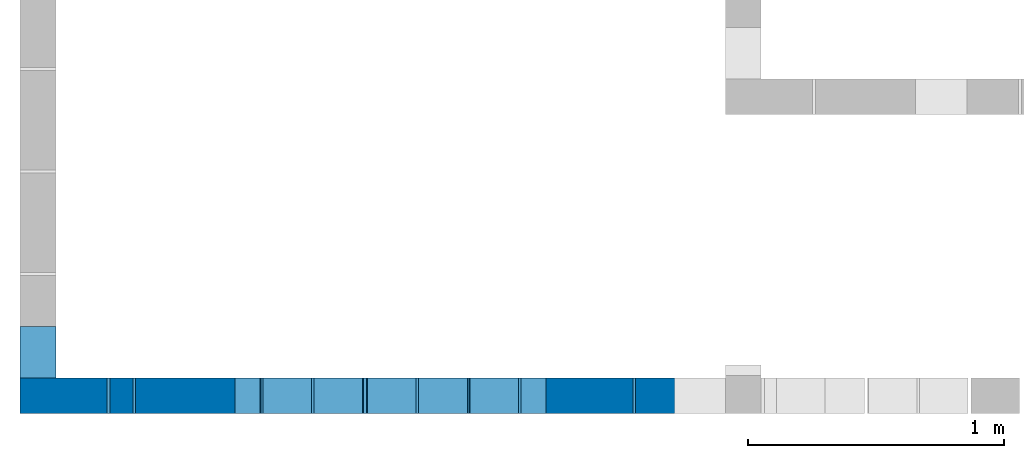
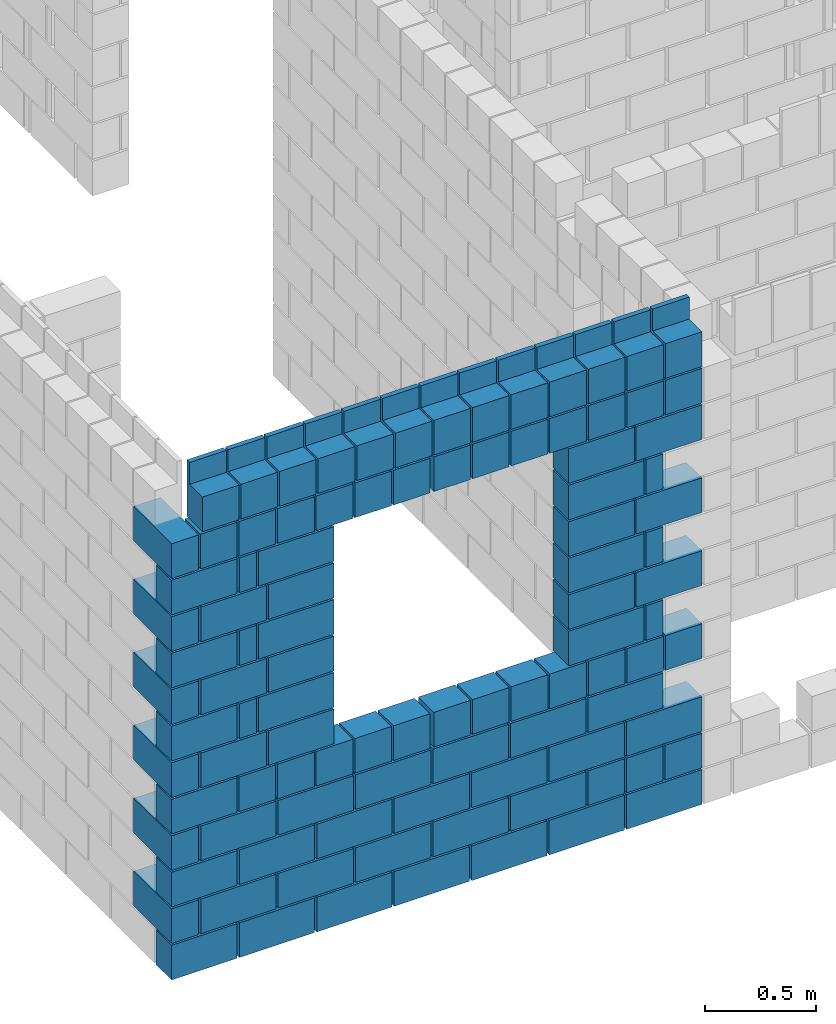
# One storey, part 1 of 12: 2 walls.
"""IFC4 building model written with IfcOpenShell, lengths in centimetres."""

import ifcopenshell
import ifcopenshell.guid

model = None  # the IFC model being written
_history = None  # IfcOwnerHistory: only IFC2X3 demands one
_inside = {}  # id of a spatial element -> (the spatial element, [elements in it])
_under = {}  # id of a project, library or spatial element -> (it, [spatial elements below it])
_declared = {}  # id of a project -> (the project, [libraries it declares])
_typed = {}  # id of a type object -> (the type object, [elements of that type])
_made_of = {}  # id of a material, layer set ... -> (it, [elements and type objects made of it])


def new_model(schema):
    """Start an empty IFC model of exactly this schema.

    Asked for "IFC4X3", IfcOpenShell would pick the latest addendum, in which some entities
    have other attributes; the version numbers below select the first issue.
    IFC2X3 requires an IfcOwnerHistory on every rooted entity: one is made here for all.
    """
    global model, _history
    if schema == "IFC4X3":
        model = ifcopenshell.file(schema_version=(4, 3, 0, 0))
    else:
        model = ifcopenshell.file(schema=schema)
    _inside.clear()
    _under.clear()
    _declared.clear()
    _typed.clear()
    _made_of.clear()
    _history = None
    if model.schema == "IFC2X3":
        org = make("IfcOrganization", Name="unknown")
        user = make(
            "IfcPersonAndOrganization",
            ThePerson=make("IfcPerson", FamilyName="unknown"),
            TheOrganization=org,
        )
        app = make(
            "IfcApplication",
            ApplicationDeveloper=org,
            Version="unknown",
            ApplicationFullName="unknown",
            ApplicationIdentifier="unknown",
        )
        _history = make(
            "IfcOwnerHistory",
            OwningUser=user,
            OwningApplication=app,
            ChangeAction="ADDED",
            CreationDate=0,
        )
    return model


def make(cls, **values):
    """One entity of the class cls with the attributes given. An attribute that is None is left unset."""
    return model.create_entity(
        cls, **{name: value for name, value in values.items() if value is not None}
    )


def rooted(cls, **values):
    """An entity with a GlobalId (a new one), such as an element, a storey or a relation."""
    return make(cls, GlobalId=ifcopenshell.guid.new(), OwnerHistory=_history, **values)


def si_unit(unit_type, name, prefix=None):
    """IfcSIUnit, for example si_unit("LENGTHUNIT", "METRE", prefix="MILLI")."""
    return make("IfcSIUnit", UnitType=unit_type, Prefix=prefix, Name=name)


def derived_unit(unit_type, elements):
    """IfcDerivedUnit: a product of units, each with its exponent."""
    return make(
        "IfcDerivedUnit",
        Elements=[
            make("IfcDerivedUnitElement", Unit=unit, Exponent=power)
            for unit, power in elements
        ],
        UnitType=unit_type,
    )


def assignment(units):
    """IfcUnitAssignment: the units of a project."""
    return None if units is None else make("IfcUnitAssignment", Units=units)


def point(xyz):
    """IfcCartesianPoint."""
    return None if xyz is None else make("IfcCartesianPoint", Coordinates=xyz)


def direction(xyz):
    """IfcDirection."""
    return None if xyz is None else make("IfcDirection", DirectionRatios=xyz)


def frame(location, z_axis=None, x_axis=None):
    """IfcAxis2Placement3D, a coordinate frame: its origin and axes. An axis left out is left unset."""
    return make(
        "IfcAxis2Placement3D",
        Location=point(location),
        Axis=direction(z_axis),
        RefDirection=direction(x_axis),
    )


def frame_2d(location, x_axis=None):
    """IfcAxis2Placement2D, a coordinate frame in the plane: its origin and x axis."""
    return make(
        "IfcAxis2Placement2D", Location=point(location), RefDirection=direction(x_axis)
    )


def origin():
    """The frame at (0, 0, 0) with its axes left unset."""
    return frame((0.0, 0.0, 0.0))


def origin_with_axes():
    """The frame at (0, 0, 0) with the z axis (0, 0, 1) and the x axis (1, 0, 0) written out."""
    return frame((0.0, 0.0, 0.0), z_axis=(0.0, 0.0, 1.0), x_axis=(1.0, 0.0, 0.0))


def origin_2d_with_axis():
    """The frame at (0, 0) in the plane with the x axis (1, 0) written out."""
    return frame_2d((0.0, 0.0), x_axis=(1.0, 0.0))


def place(relative_to, where):
    """IfcLocalPlacement: puts the frame where relative to a parent placement (None: the world)."""
    return make(
        "IfcLocalPlacement", PlacementRelTo=relative_to, RelativePlacement=where
    )


def context(
    kind, dimensions, precision=None, world=None, true_north=None, identifier=None
):
    """IfcGeometricRepresentationContext, for example the 3D "Model" context."""
    return make(
        "IfcGeometricRepresentationContext",
        ContextIdentifier=identifier,
        ContextType=kind,
        CoordinateSpaceDimension=dimensions,
        Precision=precision,
        WorldCoordinateSystem=world,
        TrueNorth=true_north,
    )


def project(units=None, contexts=None):
    """IfcProject with its units and contexts."""
    return rooted(
        "IfcProject",
        Name="project",
        RepresentationContexts=contexts,
        UnitsInContext=assignment(units),
    )


def spatial(cls, under=None, at=None, **own):
    """A site, building, storey or space (cls), placed at a placement, below another one or the project."""
    s = rooted(cls, ObjectPlacement=at, **own)
    if under is not None:
        _under.setdefault(under.id(), (under, []))[1].append(s)
    return s


def profile(cls, at=None, kind="AREA", **sizes):
    """A parametric profile (cls). Its sizes go by their IFC names, for example OverallWidth=200.0."""
    return make(cls, ProfileType=kind, Position=at, **sizes)


def rectangle(**sizes):
    """IfcRectangleProfileDef."""
    return profile("IfcRectangleProfileDef", **sizes)


def extrude(swept, where, along, depth):
    """IfcExtrudedAreaSolid: the profile swept, set in the frame where, extruded along a direction by depth."""
    return make(
        "IfcExtrudedAreaSolid",
        SweptArea=swept,
        Position=where,
        ExtrudedDirection=direction(along),
        Depth=depth,
    )


def shape(context_of_items, identifier, shape_type, items):
    """IfcShapeRepresentation: the items that make up one representation, for example the "Body"."""
    return make(
        "IfcShapeRepresentation",
        ContextOfItems=context_of_items,
        RepresentationIdentifier=identifier,
        RepresentationType=shape_type,
        Items=items,
    )


def made_of(thing, what):
    """Note that an element or type object is made of a material, layer set ...; save() writes the relation."""
    if what is not None:
        _made_of.setdefault(what.id(), (what, []))[1].append(thing)
    return thing


def element(
    cls,
    number,
    at=None,
    inside=None,
    cuts=None,
    type_object=None,
    material=None,
    context=None,
    identifier="Body",
    shape_type=None,
    held_by="IfcProductDefinitionShape",
    body=None,
    shapes=None,
    **own,
):
    """One element of the class cls, such as IfcWall. Its Tag is "e" and its number.

    at: its placement. inside: the storey or other place that contains it. cuts: it is an
    opening in that element (IfcRelVoidsElement). A single representation is given by context,
    identifier, shape_type and body (its items); several are given by shapes. held_by: the class
    of the entity that holds the representations. save() writes the other relations.
    """
    e = rooted(cls, Tag="e%d" % number, ObjectPlacement=at, **own)
    if body is not None:
        shapes = [shape(context, identifier, shape_type, body)]
    if shapes is not None:
        e.Representation = make(held_by, Representations=shapes)
    if inside is not None:
        _inside.setdefault(inside.id(), (inside, []))[1].append(e)
    if cuts is not None:
        rooted(
            "IfcRelVoidsElement", RelatingBuildingElement=cuts, RelatedOpeningElement=e
        )
    if type_object is not None:
        _typed.setdefault(type_object.id(), (type_object, []))[1].append(e)
    return made_of(e, material)


def aggregate(whole, parts):
    """IfcRelAggregates: a whole, such as a stair, and the parts it consists of."""
    return rooted("IfcRelAggregates", RelatingObject=whole, RelatedObjects=parts)


def save(model, path):
    """Write the relations noted so far, then the file.

    IfcRelAggregates (storeys below a building ...), IfcRelContainedInSpatialStructure (elements
    in a storey), IfcRelDefinesByType, IfcRelAssociatesMaterial and IfcRelDeclares: one each for
    every whole, place, type object, material and project.
    """
    for whole, parts in _under.values():
        aggregate(whole, parts)
    for where, things in _inside.values():
        rooted(
            "IfcRelContainedInSpatialStructure",
            RelatedElements=things,
            RelatingStructure=where,
        )
    for kind, things in _typed.values():
        rooted("IfcRelDefinesByType", RelatedObjects=things, RelatingType=kind)
    for what, things in _made_of.values():
        rooted("IfcRelAssociatesMaterial", RelatedObjects=things, RelatingMaterial=what)
    for by, libraries in _declared.values():
        rooted("IfcRelDeclares", RelatingContext=by, RelatedDefinitions=libraries)
    model.write(path)


model = new_model("IFC4")

# Units and contexts
model_context = context("Model", 3, precision=1e-05, world=origin_with_axes(), identifier="Body")
ifc_project = project(units=[si_unit("LENGTHUNIT", "METRE", prefix="CENTI"), si_unit("VOLUMEUNIT", "CUBIC_METRE"), si_unit("AREAUNIT", "SQUARE_METRE"), si_unit("POWERUNIT", "WATT"), si_unit("LUMINOUSFLUXUNIT", "LUMEN"), si_unit("ELECTRICCURRENTUNIT", "AMPERE"), si_unit("PRESSUREUNIT", "PASCAL", prefix="KILO"), si_unit("MASSUNIT", "GRAM", prefix="KILO"), si_unit("PLANEANGLEUNIT", "RADIAN"), derived_unit("VOLUMETRICFLOWRATEUNIT", [(si_unit("LENGTHUNIT", "METRE"), 3), (si_unit("TIMEUNIT", "SECOND"), -1)])], contexts=[model_context])

# Site, building, storey
site_placement = place(None, origin_with_axes())
site = spatial("IfcSite", under=ifc_project, at=site_placement)
building_placement = place(site_placement, origin())
building = spatial("IfcBuilding", under=site, at=building_placement)
storey_placement = place(building_placement, origin_with_axes())
storey = spatial("IfcBuildingStorey", under=building, at=storey_placement, Name="PISO", CompositionType="ELEMENT", Elevation=0.0)

# Walls
wall_1_placement = place(storey_placement, frame((18.0, 18.0, 239.0), z_axis=(0.0, 0.0, 1.0), x_axis=(1.0, 0.0, 0.0)))
element("IfcWall", 1, at=wall_1_placement, inside=storey, context=model_context, shape_type="SolidModel", body=[
    extrude(rectangle(XDim=34.0, YDim=14.0, at=origin_2d_with_axis()), frame((0.0, -10.0, -239.0), z_axis=(0.0, 0.0, 1.0), x_axis=(1.0, 0.0, 0.0)), (0.0, 0.0, 1.0), 19.0),
    extrude(rectangle(XDim=34.0, YDim=14.0, at=origin_2d_with_axis()), frame((-10.0, 0.0, -219.0), z_axis=(0.0, 0.0, 1.0), x_axis=(0.0, 1.0, 0.0)), (0.0, 0.0, 1.0), 19.0),
    extrude(rectangle(XDim=34.0, YDim=14.0, at=origin_2d_with_axis()), frame((0.0, -10.0, -199.0), z_axis=(0.0, 0.0, 1.0), x_axis=(1.0, 0.0, 0.0)), (0.0, 0.0, 1.0), 19.0),
    extrude(rectangle(XDim=34.0, YDim=14.0, at=origin_2d_with_axis()), frame((-10.0, 0.0, -179.0), z_axis=(0.0, 0.0, 1.0), x_axis=(0.0, 1.0, 0.0)), (0.0, 0.0, 1.0), 19.0),
    extrude(rectangle(XDim=34.0, YDim=14.0, at=origin_2d_with_axis()), frame((0.0, -10.0, -159.0), z_axis=(0.0, 0.0, 1.0), x_axis=(1.0, 0.0, 0.0)), (0.0, 0.0, 1.0), 19.0),
    extrude(rectangle(XDim=34.0, YDim=14.0, at=origin_2d_with_axis()), frame((-10.0, 0.0, -139.0), z_axis=(0.0, 0.0, 1.0), x_axis=(0.0, 1.0, 0.0)), (0.0, 0.0, 1.0), 19.0),
    extrude(rectangle(XDim=34.0, YDim=14.0, at=origin_2d_with_axis()), frame((0.0, -10.0, -119.0), z_axis=(0.0, 0.0, 1.0), x_axis=(1.0, 0.0, 0.0)), (0.0, 0.0, 1.0), 19.0),
    extrude(rectangle(XDim=34.0, YDim=14.0, at=origin_2d_with_axis()), frame((-10.0, 0.0, -99.0), z_axis=(0.0, 0.0, 1.0), x_axis=(0.0, 1.0, 0.0)), (0.0, 0.0, 1.0), 19.0),
    extrude(rectangle(XDim=34.0, YDim=14.0, at=origin_2d_with_axis()), frame((0.0, -10.0, -79.0), z_axis=(0.0, 0.0, 1.0), x_axis=(1.0, 0.0, 0.0)), (0.0, 0.0, 1.0), 19.0),
    extrude(rectangle(XDim=34.0, YDim=14.0, at=origin_2d_with_axis()), frame((-10.0, 0.0, -59.0), z_axis=(0.0, 0.0, 1.0), x_axis=(0.0, 1.0, 0.0)), (0.0, 0.0, 1.0), 19.0),
    extrude(rectangle(XDim=34.0, YDim=14.0, at=origin_2d_with_axis()), frame((0.0, -10.0, -39.0), z_axis=(0.0, 0.0, 1.0), x_axis=(1.0, 0.0, 0.0)), (0.0, 0.0, 1.0), 19.0),
    extrude(rectangle(XDim=34.0, YDim=14.0, at=origin_2d_with_axis()), frame((-10.0, 0.0, -19.0), z_axis=(0.0, 0.0, 1.0), x_axis=(0.0, 1.0, 0.0)), (0.0, 0.0, 1.0), 19.0),
])
wall_2_placement = place(storey_placement, frame((146.0, 8.0, 271.0), z_axis=(0.0, 0.0, 1.0), x_axis=(1.0, 0.0, 0.0)))
element("IfcWall", 2, at=wall_2_placement, inside=storey, Name="PAR-PISO-10", context=model_context, shape_type="SolidModel", body=[
    extrude(rectangle(XDim=39.0, YDim=14.0, at=origin_2d_with_axis()), frame((110.35714285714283, 0.0, -271.0), z_axis=(0.0, 0.0, 1.0), x_axis=(-1.0, 0.0, 0.0)), (0.0, 0.0, 1.0), 19.0),
    extrude(rectangle(XDim=39.0, YDim=14.0, at=origin_2d_with_axis()), frame((70.21428571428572, 0.0, -271.0), z_axis=(0.0, 0.0, 1.0), x_axis=(-1.0, 0.0, 0.0)), (0.0, 0.0, 1.0), 19.0),
    extrude(rectangle(XDim=39.0, YDim=14.0, at=origin_2d_with_axis()), frame((30.071428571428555, 0.0, -271.0), z_axis=(0.0, 0.0, 1.0), x_axis=(-1.0, 0.0, 0.0)), (0.0, 0.0, 1.0), 19.0),
    extrude(rectangle(XDim=39.0, YDim=14.0, at=origin_2d_with_axis()), frame((-10.071428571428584, 0.0, -271.0), z_axis=(0.0, 0.0, 1.0), x_axis=(-1.0, 0.0, 0.0)), (0.0, 0.0, 1.0), 19.0),
    extrude(rectangle(XDim=39.0, YDim=14.0, at=origin_2d_with_axis()), frame((-50.21428571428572, 0.0, -271.0), z_axis=(0.0, 0.0, 1.0), x_axis=(-1.0, 0.0, 0.0)), (0.0, 0.0, 1.0), 19.0),
    extrude(rectangle(XDim=39.0, YDim=14.0, at=origin_2d_with_axis()), frame((-90.35714285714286, 0.0, -271.0), z_axis=(0.0, 0.0, 1.0), x_axis=(-1.0, 0.0, 0.0)), (0.0, 0.0, 1.0), 19.0),
    extrude(rectangle(XDim=39.0, YDim=14.0, at=origin_2d_with_axis()), frame((50.21428571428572, 0.0, -251.0), z_axis=(0.0, 0.0, 1.0), x_axis=(-1.0, 0.0, 0.0)), (0.0, 0.0, 1.0), 19.0),
    extrude(rectangle(XDim=39.0, YDim=14.0, at=origin_2d_with_axis()), frame((10.071428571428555, 0.0, -251.0), z_axis=(0.0, 0.0, 1.0), x_axis=(-1.0, 0.0, 0.0)), (0.0, 0.0, 1.0), 19.0),
    extrude(rectangle(XDim=39.0, YDim=14.0, at=origin_2d_with_axis()), frame((-30.071428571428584, 0.0, -251.0), z_axis=(0.0, 0.0, 1.0), x_axis=(-1.0, 0.0, 0.0)), (0.0, 0.0, 1.0), 19.0),
    extrude(rectangle(XDim=39.0, YDim=14.0, at=origin_2d_with_axis()), frame((-70.21428571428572, 0.0, -251.0), z_axis=(0.0, 0.0, 1.0), x_axis=(-1.0, 0.0, 0.0)), (0.0, 0.0, 1.0), 19.0),
    extrude(rectangle(XDim=39.0, YDim=14.0, at=origin_2d_with_axis()), frame((-110.35714285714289, 0.0, -251.0), z_axis=(0.0, 0.0, 1.0), x_axis=(-1.0, 0.0, 0.0)), (0.0, 0.0, 1.0), 19.0),
    extrude(rectangle(XDim=19.0, YDim=14.0, at=origin_2d_with_axis()), frame((120.35714285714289, 0.0, -251.0), z_axis=(0.0, 0.0, 1.0), x_axis=(-1.0, 0.0, 0.0)), (0.0, 0.0, 1.0), 19.0),
    extrude(rectangle(XDim=19.0, YDim=14.0, at=origin_2d_with_axis()), frame((100.35714285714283, 0.0, -251.0), z_axis=(0.0, 0.0, 1.0), x_axis=(-1.0, 0.0, 0.0)), (0.0, 0.0, 1.0), 19.0),
    extrude(rectangle(XDim=19.0, YDim=14.0, at=origin_2d_with_axis()), frame((80.35714285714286, 0.0, -251.0), z_axis=(0.0, 0.0, 1.0), x_axis=(-1.0, 0.0, 0.0)), (0.0, 0.0, 1.0), 19.0),
    extrude(rectangle(XDim=39.0, YDim=14.0, at=origin_2d_with_axis()), frame((110.35714285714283, 0.0, -231.0), z_axis=(0.0, 0.0, 1.0), x_axis=(-1.0, 0.0, 0.0)), (0.0, 0.0, 1.0), 19.0),
    extrude(rectangle(XDim=39.0, YDim=14.0, at=origin_2d_with_axis()), frame((70.21428571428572, 0.0, -231.0), z_axis=(0.0, 0.0, 1.0), x_axis=(-1.0, 0.0, 0.0)), (0.0, 0.0, 1.0), 19.0),
    extrude(rectangle(XDim=39.0, YDim=14.0, at=origin_2d_with_axis()), frame((30.071428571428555, 0.0, -231.0), z_axis=(0.0, 0.0, 1.0), x_axis=(-1.0, 0.0, 0.0)), (0.0, 0.0, 1.0), 19.0),
    extrude(rectangle(XDim=39.0, YDim=14.0, at=origin_2d_with_axis()), frame((-10.071428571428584, 0.0, -231.0), z_axis=(0.0, 0.0, 1.0), x_axis=(-1.0, 0.0, 0.0)), (0.0, 0.0, 1.0), 19.0),
    extrude(rectangle(XDim=39.0, YDim=14.0, at=origin_2d_with_axis()), frame((-50.21428571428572, 0.0, -231.0), z_axis=(0.0, 0.0, 1.0), x_axis=(-1.0, 0.0, 0.0)), (0.0, 0.0, 1.0), 19.0),
    extrude(rectangle(XDim=39.0, YDim=14.0, at=origin_2d_with_axis()), frame((-90.35714285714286, 0.0, -231.0), z_axis=(0.0, 0.0, 1.0), x_axis=(-1.0, 0.0, 0.0)), (0.0, 0.0, 1.0), 19.0),
    extrude(rectangle(XDim=39.0, YDim=14.0, at=origin_2d_with_axis()), frame((90.35714285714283, 0.0, -211.0), z_axis=(0.0, 0.0, 1.0), x_axis=(-1.0, 0.0, 0.0)), (0.0, 0.0, 1.0), 19.0),
    extrude(rectangle(XDim=39.0, YDim=14.0, at=origin_2d_with_axis()), frame((50.21428571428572, 0.0, -211.0), z_axis=(0.0, 0.0, 1.0), x_axis=(-1.0, 0.0, 0.0)), (0.0, 0.0, 1.0), 19.0),
    extrude(rectangle(XDim=39.0, YDim=14.0, at=origin_2d_with_axis()), frame((10.071428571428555, 0.0, -211.0), z_axis=(0.0, 0.0, 1.0), x_axis=(-1.0, 0.0, 0.0)), (0.0, 0.0, 1.0), 19.0),
    extrude(rectangle(XDim=39.0, YDim=14.0, at=origin_2d_with_axis()), frame((-30.071428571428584, 0.0, -211.0), z_axis=(0.0, 0.0, 1.0), x_axis=(-1.0, 0.0, 0.0)), (0.0, 0.0, 1.0), 19.0),
    extrude(rectangle(XDim=39.0, YDim=14.0, at=origin_2d_with_axis()), frame((-70.21428571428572, 0.0, -211.0), z_axis=(0.0, 0.0, 1.0), x_axis=(-1.0, 0.0, 0.0)), (0.0, 0.0, 1.0), 19.0),
    extrude(rectangle(XDim=39.0, YDim=14.0, at=origin_2d_with_axis()), frame((-110.35714285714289, 0.0, -211.0), z_axis=(0.0, 0.0, 1.0), x_axis=(-1.0, 0.0, 0.0)), (0.0, 0.0, 1.0), 19.0),
    extrude(rectangle(XDim=19.0, YDim=14.0, at=origin_2d_with_axis()), frame((120.5, 0.0, -191.0), z_axis=(0.0, 0.0, 1.0), x_axis=(-1.0, 0.0, 0.0)), (0.0, 0.0, 1.0), 19.0),
    extrude(rectangle(XDim=19.0, YDim=14.0, at=origin_2d_with_axis()), frame((100.5, 0.0, -191.0), z_axis=(0.0, 0.0, 1.0), x_axis=(-1.0, 0.0, 0.0)), (0.0, 0.0, 1.0), 19.0),
    extrude(rectangle(XDim=19.0, YDim=14.0, at=origin_2d_with_axis()), frame((80.5, 0.0, -191.0), z_axis=(0.0, 0.0, 1.0), x_axis=(-1.0, 0.0, 0.0)), (0.0, 0.0, 1.0), 19.0),
    extrude(rectangle(XDim=19.0, YDim=14.0, at=origin_2d_with_axis()), frame((60.5, 0.0, -191.0), z_axis=(0.0, 0.0, 1.0), x_axis=(-1.0, 0.0, 0.0)), (0.0, 0.0, 1.0), 19.0),
    extrude(rectangle(XDim=19.0, YDim=14.0, at=origin_2d_with_axis()), frame((40.5, 0.0, -191.0), z_axis=(0.0, 0.0, 1.0), x_axis=(-1.0, 0.0, 0.0)), (0.0, 0.0, 1.0), 19.0),
    extrude(rectangle(XDim=19.0, YDim=14.0, at=origin_2d_with_axis()), frame((20.5, 0.0, -191.0), z_axis=(0.0, 0.0, 1.0), x_axis=(-1.0, 0.0, 0.0)), (0.0, 0.0, 1.0), 19.0),
    extrude(rectangle(XDim=19.0, YDim=14.0, at=origin_2d_with_axis()), frame((0.5, 0.0, -191.0), z_axis=(0.0, 0.0, 1.0), x_axis=(-1.0, 0.0, 0.0)), (0.0, 0.0, 1.0), 19.0),
    extrude(rectangle(XDim=19.0, YDim=14.0, at=origin_2d_with_axis()), frame((-20.5, 0.0, -191.0), z_axis=(0.0, 0.0, 1.0), x_axis=(-1.0, 0.0, 0.0)), (0.0, 0.0, 1.0), 19.0),
    extrude(rectangle(XDim=19.0, YDim=14.0, at=origin_2d_with_axis()), frame((-40.5, 0.0, -191.0), z_axis=(0.0, 0.0, 1.0), x_axis=(-1.0, 0.0, 0.0)), (0.0, 0.0, 1.0), 19.0),
    extrude(rectangle(XDim=19.0, YDim=14.0, at=origin_2d_with_axis()), frame((-60.5, 0.0, -191.0), z_axis=(0.0, 0.0, 1.0), x_axis=(-1.0, 0.0, 0.0)), (0.0, 0.0, 1.0), 19.0),
    extrude(rectangle(XDim=19.0, YDim=14.0, at=origin_2d_with_axis()), frame((-80.5, 0.0, -191.0), z_axis=(0.0, 0.0, 1.0), x_axis=(-1.0, 0.0, 0.0)), (0.0, 0.0, 1.0), 19.0),
    extrude(rectangle(XDim=19.0, YDim=14.0, at=origin_2d_with_axis()), frame((-100.5, 0.0, -191.0), z_axis=(0.0, 0.0, 1.0), x_axis=(-1.0, 0.0, 0.0)), (0.0, 0.0, 1.0), 19.0),
    extrude(rectangle(XDim=34.0, YDim=14.0, at=origin_2d_with_axis()), frame((-77.85714285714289, 0.0, -171.0), z_axis=(0.0, 0.0, 1.0), x_axis=(-1.0, 0.0, 0.0)), (0.0, 0.0, 1.0), 19.0),
    extrude(rectangle(XDim=34.0, YDim=14.0, at=origin_2d_with_axis()), frame((-112.85714285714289, 0.0, -171.0), z_axis=(0.0, 0.0, 1.0), x_axis=(-1.0, 0.0, 0.0)), (0.0, 0.0, 1.0), 19.0),
    extrude(rectangle(XDim=9.0, YDim=14.0, at=origin_2d_with_axis()), frame((105.35714285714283, 0.0, -171.0), z_axis=(0.0, 0.0, 1.0), x_axis=(-1.0, 0.0, 0.0)), (0.0, 0.0, 1.0), 19.0),
    extrude(rectangle(XDim=39.0, YDim=14.0, at=origin_2d_with_axis()), frame((80.35714285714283, 0.0, -171.0), z_axis=(0.0, 0.0, 1.0), x_axis=(-1.0, 0.0, 0.0)), (0.0, 0.0, 1.0), 19.0),
    extrude(rectangle(XDim=9.0, YDim=14.0, at=origin_2d_with_axis()), frame((-105.35714285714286, 0.0, -151.0), z_axis=(0.0, 0.0, 1.0), x_axis=(-1.0, 0.0, 0.0)), (0.0, 0.0, 1.0), 19.0),
    extrude(rectangle(XDim=39.0, YDim=14.0, at=origin_2d_with_axis()), frame((-80.35714285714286, 0.0, -151.0), z_axis=(0.0, 0.0, 1.0), x_axis=(-1.0, 0.0, 0.0)), (0.0, 0.0, 1.0), 19.0),
    extrude(rectangle(XDim=34.0, YDim=14.0, at=origin_2d_with_axis()), frame((112.85714285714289, 0.0, -151.0), z_axis=(0.0, 0.0, 1.0), x_axis=(-1.0, 0.0, 0.0)), (0.0, 0.0, 1.0), 19.0),
    extrude(rectangle(XDim=34.0, YDim=14.0, at=origin_2d_with_axis()), frame((77.85714285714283, 0.0, -151.0), z_axis=(0.0, 0.0, 1.0), x_axis=(-1.0, 0.0, 0.0)), (0.0, 0.0, 1.0), 19.0),
    extrude(rectangle(XDim=34.0, YDim=14.0, at=origin_2d_with_axis()), frame((-77.85714285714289, 0.0, -131.0), z_axis=(0.0, 0.0, 1.0), x_axis=(-1.0, 0.0, 0.0)), (0.0, 0.0, 1.0), 19.0),
    extrude(rectangle(XDim=34.0, YDim=14.0, at=origin_2d_with_axis()), frame((-112.85714285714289, 0.0, -131.0), z_axis=(0.0, 0.0, 1.0), x_axis=(-1.0, 0.0, 0.0)), (0.0, 0.0, 1.0), 19.0),
    extrude(rectangle(XDim=9.0, YDim=14.0, at=origin_2d_with_axis()), frame((105.35714285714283, 0.0, -131.0), z_axis=(0.0, 0.0, 1.0), x_axis=(-1.0, 0.0, 0.0)), (0.0, 0.0, 1.0), 19.0),
    extrude(rectangle(XDim=39.0, YDim=14.0, at=origin_2d_with_axis()), frame((80.35714285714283, 0.0, -131.0), z_axis=(0.0, 0.0, 1.0), x_axis=(-1.0, 0.0, 0.0)), (0.0, 0.0, 1.0), 19.0),
    extrude(rectangle(XDim=9.0, YDim=14.0, at=origin_2d_with_axis()), frame((-105.35714285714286, 0.0, -111.0), z_axis=(0.0, 0.0, 1.0), x_axis=(-1.0, 0.0, 0.0)), (0.0, 0.0, 1.0), 19.0),
    extrude(rectangle(XDim=39.0, YDim=14.0, at=origin_2d_with_axis()), frame((-80.35714285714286, 0.0, -111.0), z_axis=(0.0, 0.0, 1.0), x_axis=(-1.0, 0.0, 0.0)), (0.0, 0.0, 1.0), 19.0),
    extrude(rectangle(XDim=34.0, YDim=14.0, at=origin_2d_with_axis()), frame((112.85714285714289, 0.0, -111.0), z_axis=(0.0, 0.0, 1.0), x_axis=(-1.0, 0.0, 0.0)), (0.0, 0.0, 1.0), 19.0),
    extrude(rectangle(XDim=34.0, YDim=14.0, at=origin_2d_with_axis()), frame((77.85714285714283, 0.0, -111.0), z_axis=(0.0, 0.0, 1.0), x_axis=(-1.0, 0.0, 0.0)), (0.0, 0.0, 1.0), 19.0),
    extrude(rectangle(XDim=34.0, YDim=14.0, at=origin_2d_with_axis()), frame((-77.85714285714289, 0.0, -91.0), z_axis=(0.0, 0.0, 1.0), x_axis=(-1.0, 0.0, 0.0)), (0.0, 0.0, 1.0), 19.0),
    extrude(rectangle(XDim=34.0, YDim=14.0, at=origin_2d_with_axis()), frame((-112.85714285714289, 0.0, -91.0), z_axis=(0.0, 0.0, 1.0), x_axis=(-1.0, 0.0, 0.0)), (0.0, 0.0, 1.0), 19.0),
    extrude(rectangle(XDim=9.0, YDim=14.0, at=origin_2d_with_axis()), frame((105.35714285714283, 0.0, -91.0), z_axis=(0.0, 0.0, 1.0), x_axis=(-1.0, 0.0, 0.0)), (0.0, 0.0, 1.0), 19.0),
    extrude(rectangle(XDim=39.0, YDim=14.0, at=origin_2d_with_axis()), frame((80.35714285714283, 0.0, -91.0), z_axis=(0.0, 0.0, 1.0), x_axis=(-1.0, 0.0, 0.0)), (0.0, 0.0, 1.0), 19.0),
    extrude(rectangle(XDim=9.0, YDim=14.0, at=origin_2d_with_axis()), frame((-105.35714285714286, 0.0, -71.0), z_axis=(0.0, 0.0, 1.0), x_axis=(-1.0, 0.0, 0.0)), (0.0, 0.0, 1.0), 19.0),
    extrude(rectangle(XDim=39.0, YDim=14.0, at=origin_2d_with_axis()), frame((-80.35714285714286, 0.0, -71.0), z_axis=(0.0, 0.0, 1.0), x_axis=(-1.0, 0.0, 0.0)), (0.0, 0.0, 1.0), 19.0),
    extrude(rectangle(XDim=34.0, YDim=14.0, at=origin_2d_with_axis()), frame((112.85714285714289, 0.0, -71.0), z_axis=(0.0, 0.0, 1.0), x_axis=(-1.0, 0.0, 0.0)), (0.0, 0.0, 1.0), 19.0),
    extrude(rectangle(XDim=34.0, YDim=14.0, at=origin_2d_with_axis()), frame((77.85714285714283, 0.0, -71.0), z_axis=(0.0, 0.0, 1.0), x_axis=(-1.0, 0.0, 0.0)), (0.0, 0.0, 1.0), 19.0),
    extrude(rectangle(XDim=19.0, YDim=14.0, at=origin_2d_with_axis()), frame((120.5, 0.0, -51.0), z_axis=(0.0, 0.0, 1.0), x_axis=(-1.0, 0.0, 0.0)), (0.0, 0.0, 1.0), 19.0),
    extrude(rectangle(XDim=19.0, YDim=14.0, at=origin_2d_with_axis()), frame((100.5, 0.0, -51.0), z_axis=(0.0, 0.0, 1.0), x_axis=(-1.0, 0.0, 0.0)), (0.0, 0.0, 1.0), 19.0),
    extrude(rectangle(XDim=19.0, YDim=14.0, at=origin_2d_with_axis()), frame((80.5, 0.0, -51.0), z_axis=(0.0, 0.0, 1.0), x_axis=(-1.0, 0.0, 0.0)), (0.0, 0.0, 1.0), 19.0),
    extrude(rectangle(XDim=19.0, YDim=14.0, at=origin_2d_with_axis()), frame((60.5, 0.0, -51.0), z_axis=(0.0, 0.0, 1.0), x_axis=(-1.0, 0.0, 0.0)), (0.0, 0.0, 1.0), 19.0),
    extrude(rectangle(XDim=19.0, YDim=14.0, at=origin_2d_with_axis()), frame((40.5, 0.0, -51.0), z_axis=(0.0, 0.0, 1.0), x_axis=(-1.0, 0.0, 0.0)), (0.0, 0.0, 1.0), 19.0),
    extrude(rectangle(XDim=19.0, YDim=14.0, at=origin_2d_with_axis()), frame((20.5, 0.0, -51.0), z_axis=(0.0, 0.0, 1.0), x_axis=(-1.0, 0.0, 0.0)), (0.0, 0.0, 1.0), 19.0),
    extrude(rectangle(XDim=19.0, YDim=14.0, at=origin_2d_with_axis()), frame((0.5, 0.0, -51.0), z_axis=(0.0, 0.0, 1.0), x_axis=(-1.0, 0.0, 0.0)), (0.0, 0.0, 1.0), 19.0),
    extrude(rectangle(XDim=19.0, YDim=14.0, at=origin_2d_with_axis()), frame((-20.5, 0.0, -51.0), z_axis=(0.0, 0.0, 1.0), x_axis=(-1.0, 0.0, 0.0)), (0.0, 0.0, 1.0), 19.0),
    extrude(rectangle(XDim=19.0, YDim=14.0, at=origin_2d_with_axis()), frame((-40.5, 0.0, -51.0), z_axis=(0.0, 0.0, 1.0), x_axis=(-1.0, 0.0, 0.0)), (0.0, 0.0, 1.0), 19.0),
    extrude(rectangle(XDim=19.0, YDim=14.0, at=origin_2d_with_axis()), frame((-60.5, 0.0, -51.0), z_axis=(0.0, 0.0, 1.0), x_axis=(-1.0, 0.0, 0.0)), (0.0, 0.0, 1.0), 19.0),
    extrude(rectangle(XDim=19.0, YDim=14.0, at=origin_2d_with_axis()), frame((-80.5, 0.0, -51.0), z_axis=(0.0, 0.0, 1.0), x_axis=(-1.0, 0.0, 0.0)), (0.0, 0.0, 1.0), 19.0),
    extrude(rectangle(XDim=19.0, YDim=14.0, at=origin_2d_with_axis()), frame((-100.5, 0.0, -51.0), z_axis=(0.0, 0.0, 1.0), x_axis=(-1.0, 0.0, 0.0)), (0.0, 0.0, 1.0), 19.0),
    extrude(rectangle(XDim=19.0, YDim=14.0, at=origin_2d_with_axis()), frame((-120.5, 0.0, -51.0), z_axis=(0.0, 0.0, 1.0), x_axis=(-1.0, 0.0, 0.0)), (0.0, 0.0, 1.0), 19.0),
    extrude(rectangle(XDim=19.0, YDim=2.5, at=origin_2d_with_axis()), frame((120.5, 5.75, -12.0), z_axis=(0.0, 0.0, 1.0), x_axis=(-1.0, 0.0, 0.0)), (0.0, 0.0, 1.0), 12.0),
    extrude(rectangle(XDim=19.0, YDim=14.0, at=origin_2d_with_axis()), frame((120.5, 0.0, -31.0), z_axis=(0.0, 0.0, 1.0), x_axis=(-1.0, 0.0, 0.0)), (0.0, 0.0, 1.0), 19.0),
    extrude(rectangle(XDim=19.0, YDim=2.5, at=origin_2d_with_axis()), frame((100.5, 5.75, -12.0), z_axis=(0.0, 0.0, 1.0), x_axis=(-1.0, 0.0, 0.0)), (0.0, 0.0, 1.0), 12.0),
    extrude(rectangle(XDim=19.0, YDim=14.0, at=origin_2d_with_axis()), frame((100.5, 0.0, -31.0), z_axis=(0.0, 0.0, 1.0), x_axis=(-1.0, 0.0, 0.0)), (0.0, 0.0, 1.0), 19.0),
    extrude(rectangle(XDim=19.0, YDim=2.5, at=origin_2d_with_axis()), frame((80.5, 5.75, -12.0), z_axis=(0.0, 0.0, 1.0), x_axis=(-1.0, 0.0, 0.0)), (0.0, 0.0, 1.0), 12.0),
    extrude(rectangle(XDim=19.0, YDim=14.0, at=origin_2d_with_axis()), frame((80.5, 0.0, -31.0), z_axis=(0.0, 0.0, 1.0), x_axis=(-1.0, 0.0, 0.0)), (0.0, 0.0, 1.0), 19.0),
    extrude(rectangle(XDim=19.0, YDim=2.5, at=origin_2d_with_axis()), frame((60.5, 5.75, -12.0), z_axis=(0.0, 0.0, 1.0), x_axis=(-1.0, 0.0, 0.0)), (0.0, 0.0, 1.0), 12.0),
    extrude(rectangle(XDim=19.0, YDim=14.0, at=origin_2d_with_axis()), frame((60.5, 0.0, -31.0), z_axis=(0.0, 0.0, 1.0), x_axis=(-1.0, 0.0, 0.0)), (0.0, 0.0, 1.0), 19.0),
    extrude(rectangle(XDim=19.0, YDim=2.5, at=origin_2d_with_axis()), frame((40.5, 5.75, -12.0), z_axis=(0.0, 0.0, 1.0), x_axis=(-1.0, 0.0, 0.0)), (0.0, 0.0, 1.0), 12.0),
    extrude(rectangle(XDim=19.0, YDim=14.0, at=origin_2d_with_axis()), frame((40.5, 0.0, -31.0), z_axis=(0.0, 0.0, 1.0), x_axis=(-1.0, 0.0, 0.0)), (0.0, 0.0, 1.0), 19.0),
    extrude(rectangle(XDim=19.0, YDim=2.5, at=origin_2d_with_axis()), frame((20.5, 5.75, -12.0), z_axis=(0.0, 0.0, 1.0), x_axis=(-1.0, 0.0, 0.0)), (0.0, 0.0, 1.0), 12.0),
    extrude(rectangle(XDim=19.0, YDim=14.0, at=origin_2d_with_axis()), frame((20.5, 0.0, -31.0), z_axis=(0.0, 0.0, 1.0), x_axis=(-1.0, 0.0, 0.0)), (0.0, 0.0, 1.0), 19.0),
    extrude(rectangle(XDim=19.0, YDim=2.5, at=origin_2d_with_axis()), frame((0.5, 5.75, -12.0), z_axis=(0.0, 0.0, 1.0), x_axis=(-1.0, 0.0, 0.0)), (0.0, 0.0, 1.0), 12.0),
    extrude(rectangle(XDim=19.0, YDim=14.0, at=origin_2d_with_axis()), frame((0.5, 0.0, -31.0), z_axis=(0.0, 0.0, 1.0), x_axis=(-1.0, 0.0, 0.0)), (0.0, 0.0, 1.0), 19.0),
    extrude(rectangle(XDim=19.0, YDim=2.5, at=origin_2d_with_axis()), frame((-19.5, 5.75, -12.0), z_axis=(0.0, 0.0, 1.0), x_axis=(-1.0, 0.0, 0.0)), (0.0, 0.0, 1.0), 12.0),
    extrude(rectangle(XDim=19.0, YDim=14.0, at=origin_2d_with_axis()), frame((-19.5, 0.0, -31.0), z_axis=(0.0, 0.0, 1.0), x_axis=(-1.0, 0.0, 0.0)), (0.0, 0.0, 1.0), 19.0),
    extrude(rectangle(XDim=19.0, YDim=2.5, at=origin_2d_with_axis()), frame((-39.5, 5.75, -12.0), z_axis=(0.0, 0.0, 1.0), x_axis=(-1.0, 0.0, 0.0)), (0.0, 0.0, 1.0), 12.0),
    extrude(rectangle(XDim=19.0, YDim=14.0, at=origin_2d_with_axis()), frame((-39.5, 0.0, -31.0), z_axis=(0.0, 0.0, 1.0), x_axis=(-1.0, 0.0, 0.0)), (0.0, 0.0, 1.0), 19.0),
    extrude(rectangle(XDim=19.0, YDim=2.5, at=origin_2d_with_axis()), frame((-59.5, 5.75, -12.0), z_axis=(0.0, 0.0, 1.0), x_axis=(-1.0, 0.0, 0.0)), (0.0, 0.0, 1.0), 12.0),
    extrude(rectangle(XDim=19.0, YDim=14.0, at=origin_2d_with_axis()), frame((-59.5, 0.0, -31.0), z_axis=(0.0, 0.0, 1.0), x_axis=(-1.0, 0.0, 0.0)), (0.0, 0.0, 1.0), 19.0),
    extrude(rectangle(XDim=19.0, YDim=2.5, at=origin_2d_with_axis()), frame((-79.5, 5.75, -12.0), z_axis=(0.0, 0.0, 1.0), x_axis=(-1.0, 0.0, 0.0)), (0.0, 0.0, 1.0), 12.0),
    extrude(rectangle(XDim=19.0, YDim=14.0, at=origin_2d_with_axis()), frame((-79.5, 0.0, -31.0), z_axis=(0.0, 0.0, 1.0), x_axis=(-1.0, 0.0, 0.0)), (0.0, 0.0, 1.0), 19.0),
    extrude(rectangle(XDim=19.0, YDim=2.5, at=origin_2d_with_axis()), frame((-99.5, 5.75, -12.0), z_axis=(0.0, 0.0, 1.0), x_axis=(-1.0, 0.0, 0.0)), (0.0, 0.0, 1.0), 12.0),
    extrude(rectangle(XDim=19.0, YDim=14.0, at=origin_2d_with_axis()), frame((-99.5, 0.0, -31.0), z_axis=(0.0, 0.0, 1.0), x_axis=(-1.0, 0.0, 0.0)), (0.0, 0.0, 1.0), 19.0),
    extrude(rectangle(XDim=19.0, YDim=2.5, at=origin_2d_with_axis()), frame((-119.5, 5.75, -12.0), z_axis=(0.0, 0.0, 1.0), x_axis=(-1.0, 0.0, 0.0)), (0.0, 0.0, 1.0), 12.0),
    extrude(rectangle(XDim=19.0, YDim=14.0, at=origin_2d_with_axis()), frame((-119.5, 0.0, -31.0), z_axis=(0.0, 0.0, 1.0), x_axis=(-1.0, 0.0, 0.0)), (0.0, 0.0, 1.0), 19.0),
])

save(model, "model.ifc")
